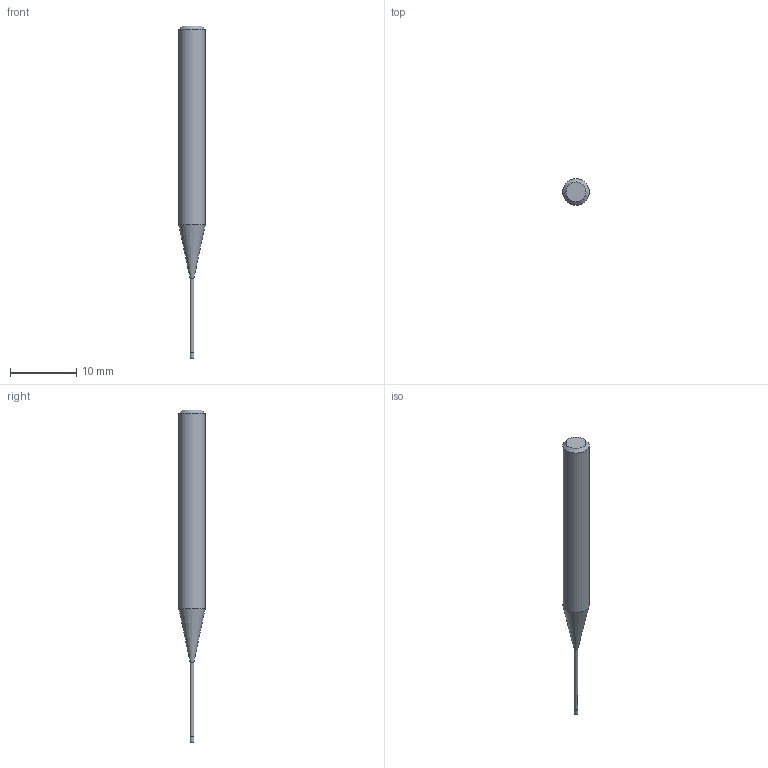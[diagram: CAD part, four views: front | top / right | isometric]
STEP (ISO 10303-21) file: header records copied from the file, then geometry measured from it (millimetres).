
FILE_DESCRIPTION((''),'2;1');
FILE_NAME('C:\Users\nsx150\AppData\Local\Temp\Mastercam 2021\17T8Q8S9EB\TEMP.step','2021-04-21T14:24:59',(''),(''),'STEP Write','Mastercam 2021 ... CNC Software, Inc.','');
FILE_SCHEMA(('AUTOMOTIVE_DESIGN'));
Length unit declared in the file: millimetre
Products named in the file (1): None
Bounding box: 4 x 4 x 50 mm (x, y, z)
Volume: 416.7 mm3; surface area: 465.7 mm2
Topology: 2 solids, 2 shells, 9 faces, 12 edges, 7 vertices
Faces by surface type: plane 4, cylinder 3, cone 2
Full cylindrical faces by diameter (mm): 0.56 x1, 0.6 x1, 4 x1
Entity records: 211 total; most frequent: DIRECTION 36, CARTESIAN_POINT 25, AXIS2_PLACEMENT_3D 18, ORIENTED_EDGE 14, EDGE_LOOP 14, STYLED_ITEM 12, ADVANCED_FACE 9, FACE_BOUND 8
